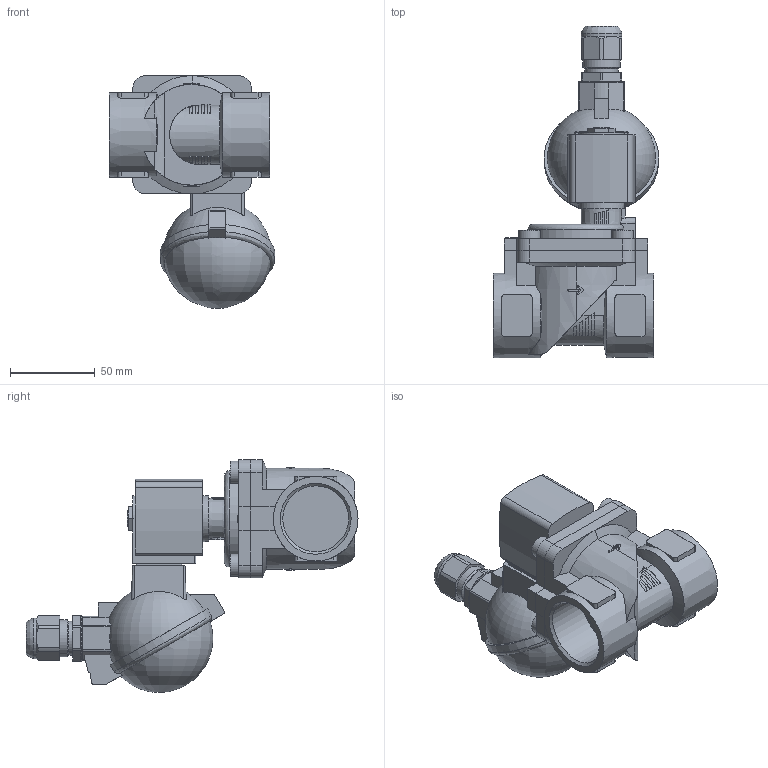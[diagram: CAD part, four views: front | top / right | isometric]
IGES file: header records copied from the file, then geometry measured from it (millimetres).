
Start section: Data from Parasolid IGES Translator 26.0.171, Copyright(c) 2006 Siemens PLM Software. All Rights Reserved.
Global section: file name: 6281-388748-2_2-Way_Solenoid_Valve__Servo-assisted__General_Purpose.igs; native system: By Siemens PLM Incorporated; preprocessor: XPlus GENERIC/IGES 26.0.171; author: Noname; organization: Noname; date: 20240827.161311; units: millimetre
Bounding box: 97.93 x 196.3 x 137.7 mm (x, y, z)
Surface area: 85003.9 mm2 (no closed solid volume)
Topology: 0 solids, 0 shells, 399 faces, 2105 edges, 2072 vertices
Faces by surface type: extrusion 238, revolution 161
